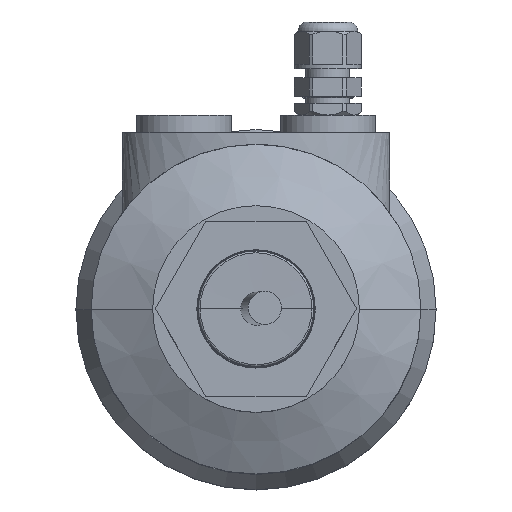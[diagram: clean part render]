
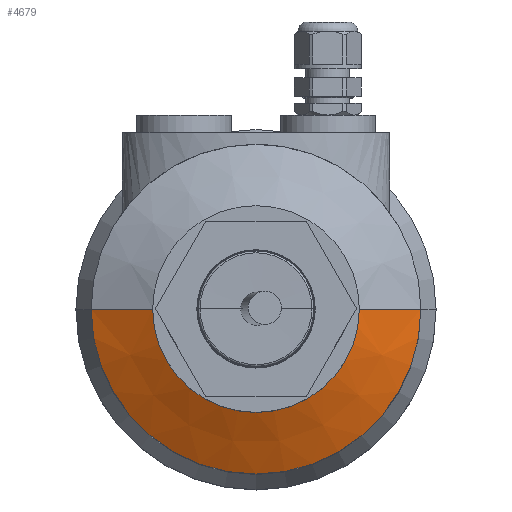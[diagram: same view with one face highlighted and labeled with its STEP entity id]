
A CAD part, top view. The second image highlights one B-rep face of the part: STEP entity #4679.
In plain terms, the highlighted conical face has half-angle 63.638 degrees and reference radius 37.949 mm.
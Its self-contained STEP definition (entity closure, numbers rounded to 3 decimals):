
#29=DIRECTION('',(0.896,0.,-0.444));
#30=VECTOR('',#29,19.429);
#31=CARTESIAN_POINT('',(29.245,0.,-17.598));
#32=LINE('',#31,#30);
#33=DIRECTION('',(-0.896,0.,-0.444));
#34=VECTOR('',#33,19.429);
#35=CARTESIAN_POINT('',(-29.245,0.,-17.598));
#36=LINE('',#35,#34);
#37=CARTESIAN_POINT('',(0.,0.,-17.598));
#38=DIRECTION('',(0.,0.,-1.));
#39=DIRECTION('',(1.,0.,0.));
#40=AXIS2_PLACEMENT_3D('',#37,#38,#39);
#154=CARTESIAN_POINT('',(0.,0.,-26.226));
#155=DIRECTION('',(0.,0.,-1.));
#156=DIRECTION('',(1.,0.,0.));
#157=AXIS2_PLACEMENT_3D('',#154,#155,#156);
#3512=CARTESIAN_POINT('',(29.245,0.,-17.598));
#3514=VERTEX_POINT('',#3512);
#3515=CARTESIAN_POINT('',(46.653,0.,-26.226));
#3516=VERTEX_POINT('',#3515);
#3524=CARTESIAN_POINT('',(-29.245,0.,-17.598));
#3526=VERTEX_POINT('',#3524);
#3527=CARTESIAN_POINT('',(-46.653,0.,-26.226));
#3528=VERTEX_POINT('',#3527);
#4665=CARTESIAN_POINT('',(0.,0.,-21.912));
#4666=DIRECTION('',(0.,0.,-1.));
#4667=DIRECTION('',(1.,0.,0.));
#4668=AXIS2_PLACEMENT_3D('',#4665,#4666,#4667);
#4669=CONICAL_SURFACE('',#4668,37.949,63.638);
#4671=ORIENTED_EDGE('',*,*,#4670,.T.);
#4673=ORIENTED_EDGE('',*,*,#4672,.T.);
#4675=ORIENTED_EDGE('',*,*,#4674,.F.);
#4676=ORIENTED_EDGE('',*,*,#4658,.F.);
#4677=EDGE_LOOP('',(#4671,#4673,#4675,#4676));
#4678=FACE_OUTER_BOUND('',#4677,.F.);
#4679=ADVANCED_FACE('',(#4678),#4669,.T.);
#41=CIRCLE('',#40,29.245);
#158=CIRCLE('',#157,46.653);
#4658=EDGE_CURVE('',#3514,#3526,#41,.T.);
#4670=EDGE_CURVE('',#3514,#3516,#32,.T.);
#4672=EDGE_CURVE('',#3516,#3528,#158,.T.);
#4674=EDGE_CURVE('',#3526,#3528,#36,.T.);
